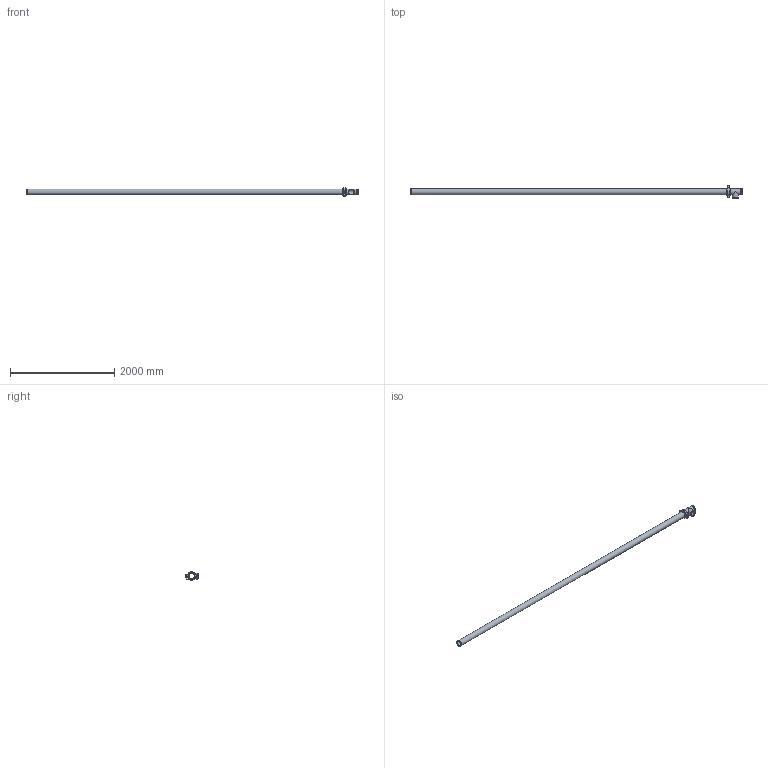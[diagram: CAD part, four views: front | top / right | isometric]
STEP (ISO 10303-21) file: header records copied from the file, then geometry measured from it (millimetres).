
FILE_DESCRIPTION(/* description */ ('VIC LONG RUN FITTING No R22 (OGS)','CAx-IF Rec.Pracs.---Representation and Presentation of Product Manufacturing Information (PMI)---4.0---2014-10-13'),/* implementation_level */ '2;1');
FILE_NAME(/* name */ 'C:\Users\Vjadhav\AppData\Roaming\Autodesk\ApplicationPlugins\Back Up\Victaulic_IPS_Long Run Fittings_No R22 (OGS)\Victaulic_IPS_Long Run Fittings_No R22 (OGS)_4 (100).stp',/* time_stamp */ '2020-10-14T10:37:50+05:00',/* author */ ('Vjadhav'),/* organization */ ('Victaulic'),/* preprocessor_version */ 'ST-DEVELOPER v17.2',/* originating_system */ 'Autodesk Inventor 2019',/* authorisation */ '');
FILE_SCHEMA (('AP242_MANAGED_MODEL_BASED_3D_ENGINEERING_MIM_LF { 1 0 10303 442 1 1 4 }'));
Length unit declared in the file: inch
Products named in the file (4): R22-04.0; 020-04.0; 177N-04.0; Pipe_R10-04.0
Assembly tree (3 placements, depth 2):
  R22-04.0
    020-04.0
    177N-04.0
    Pipe_R10-04.0
Bounding box: 6359.65 x 245.56 x 161.45 mm (x, y, z)
Volume: 13821667.2 mm3; surface area: 4473099.2 mm2
Topology: 3 solids, 3 shells, 122 faces, 323 edges, 222 vertices
Faces by surface type: plane 71, cylinder 41, cone 4, torus 4, sphere 2
Full cylindrical faces by diameter (mm): 15.875 x2, 23.495 x2, 101.6 x1, 102.26 x3, 110.084 x5, 114.3 x10
Entity records: 4247 total; most frequent: CARTESIAN_POINT 750, DIRECTION 711, ORIENTED_EDGE 654, EDGE_CURVE 327, AXIS2_PLACEMENT_3D 271, VERTEX_POINT 222, LINE 169, VECTOR 169
